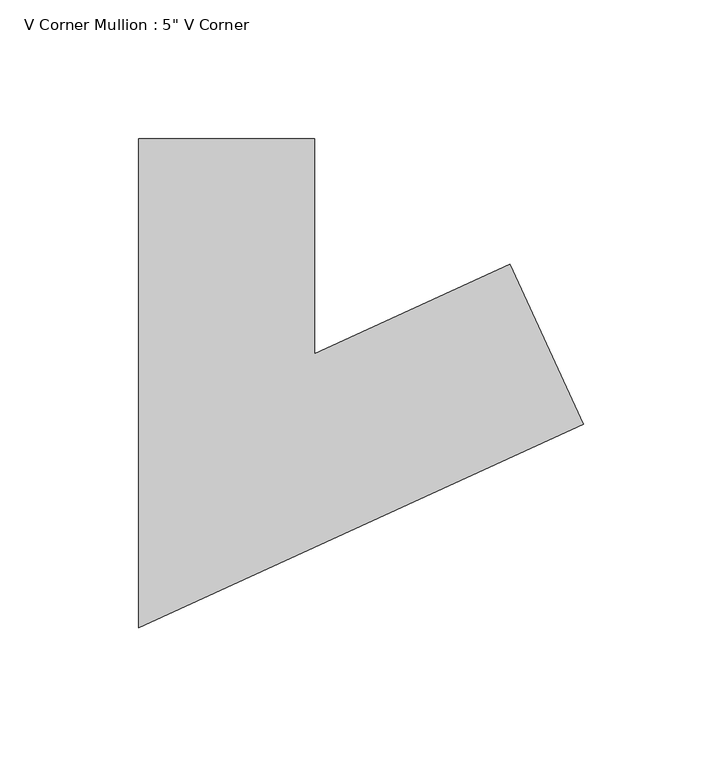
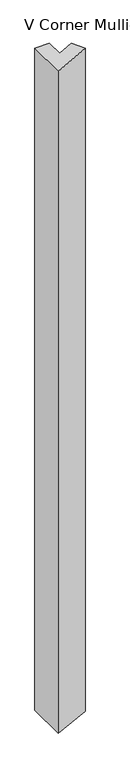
"""IFC4 building model written with IfcOpenShell, lengths in millimetres: member geometry."""

from ifc_helpers import new_model, si_unit, origin, place, context, project, spatial, faceted_brep, source, transform, mapped, element, save


def member_a7f1325a(model_context):
    return source(origin(), model_context, "Body", "Brep", [
        faceted_brep([(87.9205542, -39.5195451, -3071.6265248), (-72.5228811, -112.9476953, -3071.6265248), (-72.5228811, 63.5, -3071.6265248), (-9.0228811, 63.5, -3071.6265248), (-9.0228811, -14.0523047, -3071.6265248), (61.49523, 18.2208415, -3071.6265248), (61.49523, 18.2208415, 2.3011873), (87.9205542, -39.5195451, 3.2900384), (-9.0228811, -14.0523047, -0.3376415), (-9.0228811, 63.5, -0.3376415), (-72.5228811, 63.5, -2.7138485), (-72.5228811, -112.9476953, -2.7138485)], [[[0, 1, 2, 3, 4, 5]], [[6, 7, 0, 5]], [[8, 6, 5, 4]], [[9, 8, 4, 3]], [[10, 9, 3, 2]], [[11, 10, 2, 1]], [[7, 11, 1, 0]], [[7, 6, 8, 9, 10, 11]]]),
    ])


if __name__ == "__main__":
    model = new_model("IFC4")
    model_context = context("Model", 3, world=origin())
    ifc_project = project(units=[si_unit("LENGTHUNIT", "METRE", prefix="MILLI")], contexts=[model_context])
    site = spatial("IfcSite", under=ifc_project)
    building = spatial("IfcBuilding", under=site)
    placement = place(None, origin())
    member_shape = member_a7f1325a(model_context)
    element("IfcMember", 1, ObjectType="V Corner Mullion : 5\" V Corner", at=placement, inside=building, context=model_context, shape_type="MappedRepresentation", body=[
        mapped(member_shape, transform((0.0, 0.0, 0.0), x_axis=(1.0, 0.0, 0.0), y_axis=(0.0, 1.0, 0.0), z_axis=(0.0, 0.0, 1.0))),
    ])
    save(model, "model.ifc")
